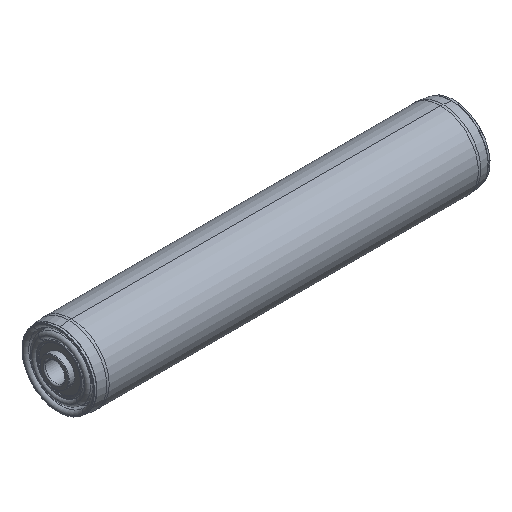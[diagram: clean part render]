
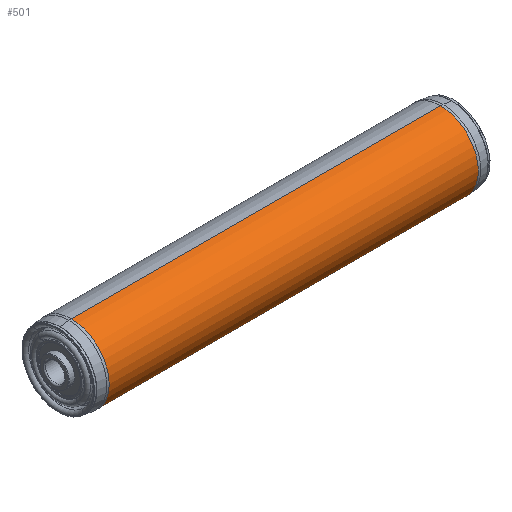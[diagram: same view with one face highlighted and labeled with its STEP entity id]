
A CAD part, isometric view. The second image highlights one B-rep face of the part: STEP entity #501.
In plain terms, the highlighted cylindrical face has radius 38 mm (diameter 76 mm), a partial arc.
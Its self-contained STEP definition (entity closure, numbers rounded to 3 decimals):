
#403 = VERTEX_POINT ( 'NONE', #1444 ) ;
#404 = VERTEX_POINT ( 'NONE', #1443 ) ;
#421 = VERTEX_POINT ( 'NONE', #1477 ) ;
#422 = VERTEX_POINT ( 'NONE', #1476 ) ;
#428 = EDGE_CURVE ( 'NONE', #422, #421, #1525, .T. ) ;
#429 = ORIENTED_EDGE ( 'NONE', *, *, #500, .T. ) ;
#430 = ORIENTED_EDGE ( 'NONE', *, *, #431, .T. ) ;
#431 = EDGE_CURVE ( 'NONE', #404, #403, #1520, .T. ) ;
#447 = EDGE_CURVE ( 'NONE', #422, #403, #1551, .T. ) ;
#500 = EDGE_CURVE ( 'NONE', #421, #404, #1654, .T. ) ;
#501 = ADVANCED_FACE ( 'NONE', ( #1650 ), #1649, .T. ) ;
#502 = EDGE_LOOP ( 'NONE', ( #503, #504, #429, #430 ) ) ;
#503 = ORIENTED_EDGE ( 'NONE', *, *, #447, .F. ) ;
#504 = ORIENTED_EDGE ( 'NONE', *, *, #428, .T. ) ;
#1443 = CARTESIAN_POINT ( 'NONE',  ( 11.223, 0., 38. ) ) ;
#1444 = CARTESIAN_POINT ( 'NONE',  ( 11.223, 0., -38. ) ) ;
#1476 = CARTESIAN_POINT ( 'NONE',  ( 381.777, 0., -38. ) ) ;
#1477 = CARTESIAN_POINT ( 'NONE',  ( 381.777, 0., 38. ) ) ;
#1516 = DIRECTION ( 'NONE',  ( 0., 0., 1. ) ) ;
#1517 = DIRECTION ( 'NONE',  ( 1., 0., 0. ) ) ;
#1518 = CARTESIAN_POINT ( 'NONE',  ( 11.223, 0., 0. ) ) ;
#1519 = AXIS2_PLACEMENT_3D ( 'NONE', #1518, #1517, #1516 ) ;
#1520 = CIRCLE ( 'NONE', #1519, 38. ) ;
#1521 = DIRECTION ( 'NONE',  ( 0., 0., -1. ) ) ;
#1522 = DIRECTION ( 'NONE',  ( -1., 0., 0. ) ) ;
#1523 = CARTESIAN_POINT ( 'NONE',  ( 381.777, 0., 0. ) ) ;
#1524 = AXIS2_PLACEMENT_3D ( 'NONE', #1523, #1522, #1521 ) ;
#1525 = CIRCLE ( 'NONE', #1524, 38. ) ;
#1543 = DIRECTION ( 'NONE',  ( -1., 0., 0. ) ) ;
#1544 = VECTOR ( 'NONE', #1543, 1000. ) ;
#1545 = CARTESIAN_POINT ( 'NONE',  ( 393., 0., -38. ) ) ;
#1551 = LINE ( 'NONE', #1545, #1544 ) ;
#1644 = DIRECTION ( 'NONE',  ( 0., 0., 1. ) ) ;
#1645 = DIRECTION ( 'NONE',  ( -1., 0., 0. ) ) ;
#1646 = CARTESIAN_POINT ( 'NONE',  ( 393., 0., 0. ) ) ;
#1647 = AXIS2_PLACEMENT_3D ( 'NONE', #1646, #1645, #1644 ) ;
#1649 = CYLINDRICAL_SURFACE ( 'NONE', #1647, 38. ) ;
#1650 = FACE_OUTER_BOUND ( 'NONE', #502, .T. ) ;
#1651 = DIRECTION ( 'NONE',  ( -1., 0., 0. ) ) ;
#1652 = VECTOR ( 'NONE', #1651, 1000. ) ;
#1653 = CARTESIAN_POINT ( 'NONE',  ( 393., 0., 38. ) ) ;
#1654 = LINE ( 'NONE', #1653, #1652 ) ;
